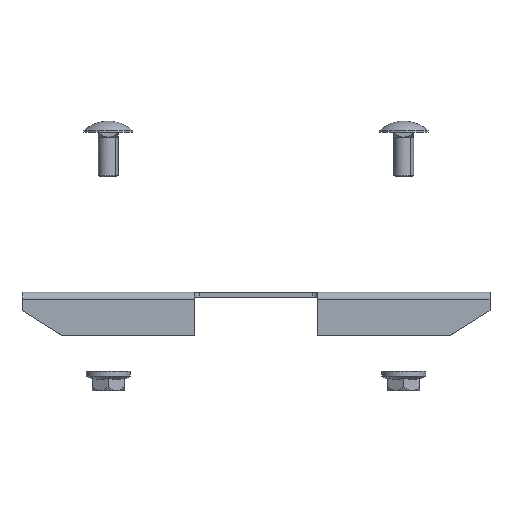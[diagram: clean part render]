
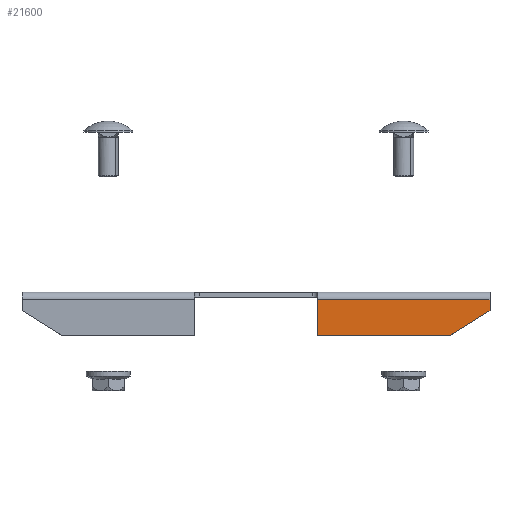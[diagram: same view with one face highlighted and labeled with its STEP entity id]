
A CAD part, top view. The second image highlights one B-rep face of the part: STEP entity #21600.
In plain terms, the highlighted planar face has unit normal (0, 0, 1) as drawn and (0, -1, 0) by its records, which use the part's own axes.
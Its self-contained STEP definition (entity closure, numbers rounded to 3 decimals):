
#9570=CARTESIAN_POINT('',(299.6,0.5,1.));
#9580=VERTEX_POINT('',#9570);
#9610=CARTESIAN_POINT('',(299.6,0.5,2.479));
#9620=DIRECTION('',(0.,0.,-1.));
#9630=VECTOR('',#9620,1.);
#9640=LINE('',#9610,#9630);
#9650=CARTESIAN_POINT('',(299.6,0.5,15.5));
#9660=VERTEX_POINT('',#9650);
#9670=EDGE_CURVE('',#9660,#9580,#9640,.T.);
#16200=CARTESIAN_POINT('',(229.6,0.5,5.502));
#16210=VERTEX_POINT('',#16200);
#16240=CARTESIAN_POINT('',(229.6,0.5,2.337));
#16250=DIRECTION('',(0.,0.,1.));
#16260=VECTOR('',#16250,1.);
#16270=LINE('',#16240,#16260);
#16280=CARTESIAN_POINT('',(229.6,0.5,1.));
#16290=VERTEX_POINT('',#16280);
#16300=EDGE_CURVE('',#16290,#16210,#16270,.T.);
#16620=CARTESIAN_POINT('',(245.6,0.5,15.5));
#16630=VERTEX_POINT('',#16620);
#16660=CARTESIAN_POINT('',(229.6,0.5,5.502));
#16670=DIRECTION('',(0.848,0.,0.53));
#16680=VECTOR('',#16670,1.);
#16690=LINE('',#16660,#16680);
#16700=EDGE_CURVE('',#16210,#16630,#16690,.T.);
#16810=CARTESIAN_POINT('',(0.,0.5,1.));
#16820=DIRECTION('',(-1.,0.,0.));
#16830=VECTOR('',#16820,1.);
#16840=LINE('',#16810,#16830);
#16850=EDGE_CURVE('',#9580,#16290,#16840,.T.);
#21430=CARTESIAN_POINT('',(-50.,0.5,2.337));
#21440=DIRECTION('',(0.,-1.,0.));
#21450=DIRECTION('',(1.,0.,0.));
#21460=AXIS2_PLACEMENT_3D('',#21430,#21440,#21450);
#21470=PLANE('',#21460);
#21480=ORIENTED_EDGE('',*,*,#16300,.F.);
#21490=ORIENTED_EDGE('',*,*,#16700,.F.);
#21500=CARTESIAN_POINT('',(0.,0.5,15.5));
#21510=DIRECTION('',(1.,0.,0.));
#21520=VECTOR('',#21510,1.);
#21530=LINE('',#21500,#21520);
#21540=EDGE_CURVE('',#16630,#9660,#21530,.T.);
#21550=ORIENTED_EDGE('',*,*,#21540,.F.);
#21560=ORIENTED_EDGE('',*,*,#9670,.F.);
#21570=ORIENTED_EDGE('',*,*,#16850,.F.);
#21580=EDGE_LOOP('',(#21570,#21560,#21550,#21490,#21480));
#21590=FACE_OUTER_BOUND('',#21580,.T.);
#21600=ADVANCED_FACE('',(#21590),#21470,.T.);
